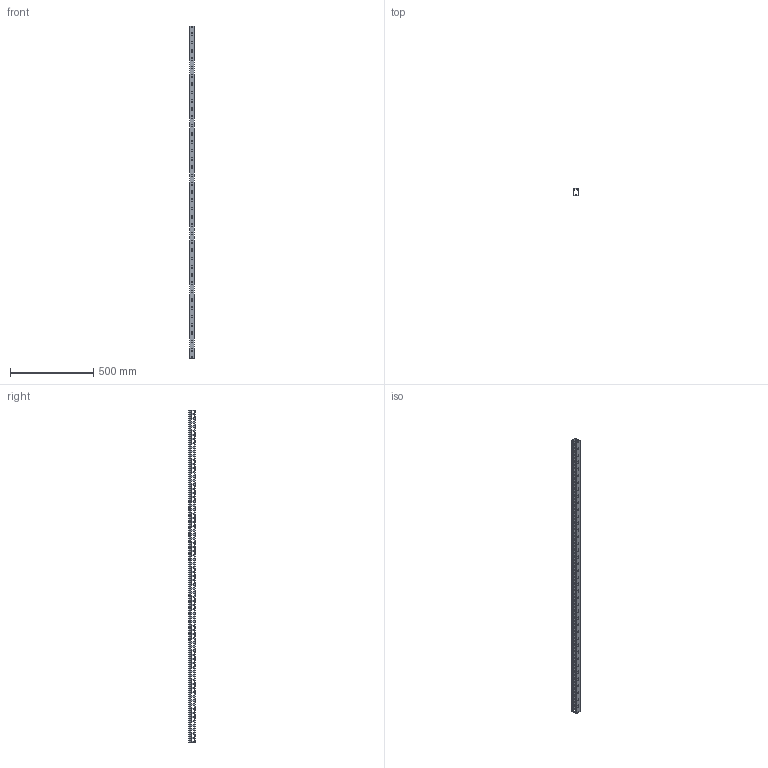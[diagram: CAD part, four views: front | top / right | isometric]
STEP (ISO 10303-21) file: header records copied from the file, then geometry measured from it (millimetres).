
FILE_DESCRIPTION (( 'STEP AP214' ), '1' );
FILE_NAME ('KD-34-20-LL.STEP', '2020-02-19T00:11:19', ( '' ), ( '' ), 'SwSTEP 2.0', 'SolidWorks 2018', '' );
FILE_SCHEMA (( 'AUTOMOTIVE_DESIGN' ));
Length unit declared in the file: millimetre
Products named in the file (3): KD-34-20-cover; KD-34-20-LL-body; KD-34-20-LL
Assembly tree (2 placements, depth 2):
  KD-34-20-LL
    KD-34-20-LL-body
    KD-34-20-cover
Bounding box: 30 x 40.17 x 2000 mm (x, y, z)
Volume: 466918.9 mm3; surface area: 598581.5 mm2
Topology: 2 solids, 2 shells, 1543 faces, 4617 edges, 3078 vertices
Faces by surface type: cylinder 795, plane 748
Entity records: 53327 total; most frequent: DIRECTION 9303, CARTESIAN_POINT 9243, ORIENTED_EDGE 9234, EDGE_CURVE 4617, AXIS2_PLACEMENT_3D 3138, VERTEX_POINT 3078, LINE 3027, VECTOR 3027
